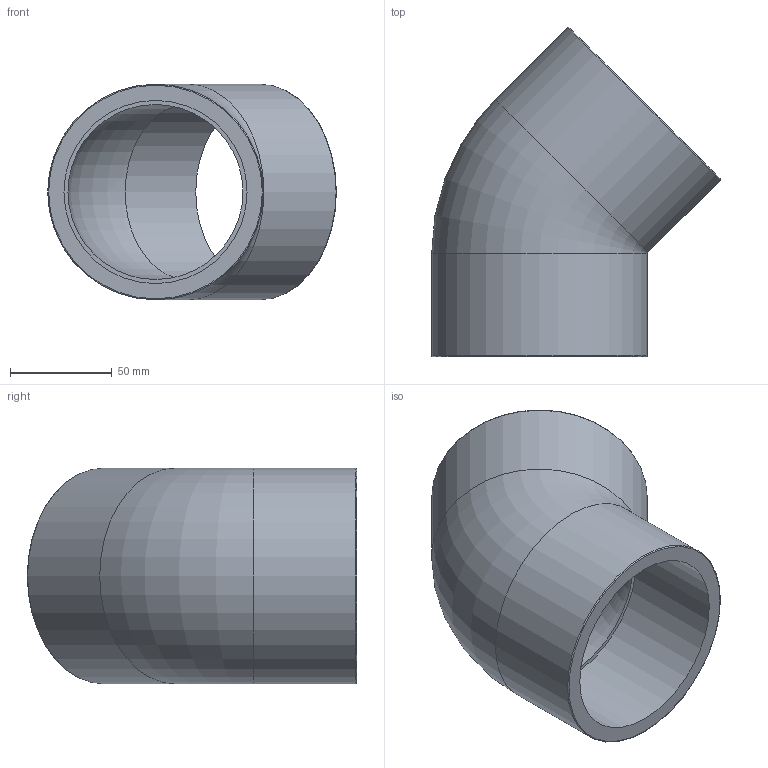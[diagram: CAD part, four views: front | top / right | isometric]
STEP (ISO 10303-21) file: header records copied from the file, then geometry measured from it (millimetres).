
FILE_DESCRIPTION(/* description */ ('PVC gomito a 45° incollaggio metrico'),/* implementation_level */ '2;1');
FILE_NAME(/* name */ 'C:\Users\POLYPIPE\Desktop\DATASET INVENTOR\LIBRERIA EFFAST\RACCORDI 3DxWEB\RDR\3D_RDRGYD\3D_RDRGYD0900.stp',/* time_stamp */ '2018-01-19T14:34:47+01:00',/* author */ ('POLYPIPE'),/* organization */ ('Polypipe Italia s.r.l.'),/* preprocessor_version */ 'ST-DEVELOPER v16.1',/* originating_system */ 'Autodesk Inventor 2016',/* authorisation */ '');
FILE_SCHEMA (('CONFIG_CONTROL_DESIGN'));
Length unit declared in the file: millimetre
Products named in the file (1): 3D_RDRGYD
Bounding box: 141.88 x 161.88 x 106 mm (x, y, z)
Volume: 376905 mm3; surface area: 93850.1 mm2
Topology: 1 solids, 1 shells, 12 faces, 20 edges, 12 vertices
Faces by surface type: torus 4, cylinder 4, plane 4
Full cylindrical faces by diameter (mm): 90 x2, 106 x2
Entity records: 396 total; most frequent: CARTESIAN_POINT 167, DIRECTION 46, EDGE_LOOP 24, ORIENTED_EDGE 24, AXIS2_PLACEMENT_3D 23, FACE_BOUND 12, FACE_OUTER_BOUND 12, VERTEX_POINT 12
